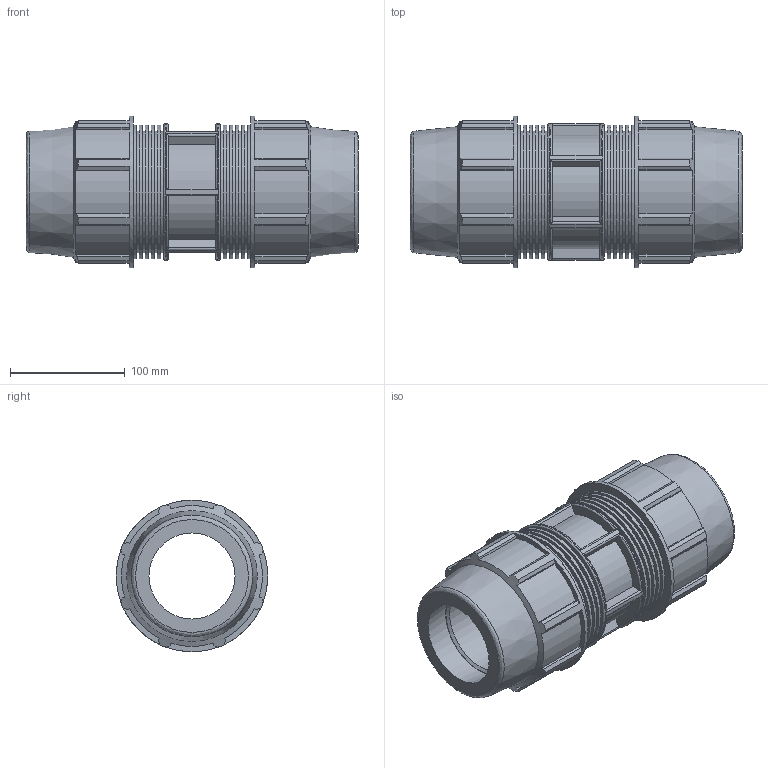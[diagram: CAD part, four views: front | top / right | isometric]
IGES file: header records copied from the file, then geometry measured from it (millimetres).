
Global section: file name: 876100075.ipt; native system: Autodesk Inventor 2015; preprocessor: unknown; author: KIM; date: 20170608.042736; units: millimetre
Bounding box: 289 x 132 x 132 mm (x, y, z)
Volume: 1692403.2 mm3; surface area: 245025.2 mm2
Topology: 1 solids, 1 shells, 212 faces, 551 edges, 370 vertices
Faces by surface type: plane 130, cylinder 57, revolution 21, cone 4
Full cylindrical faces by diameter (mm): 105.6 x10, 116.424 x10, 118.8 x1, 132 x2
